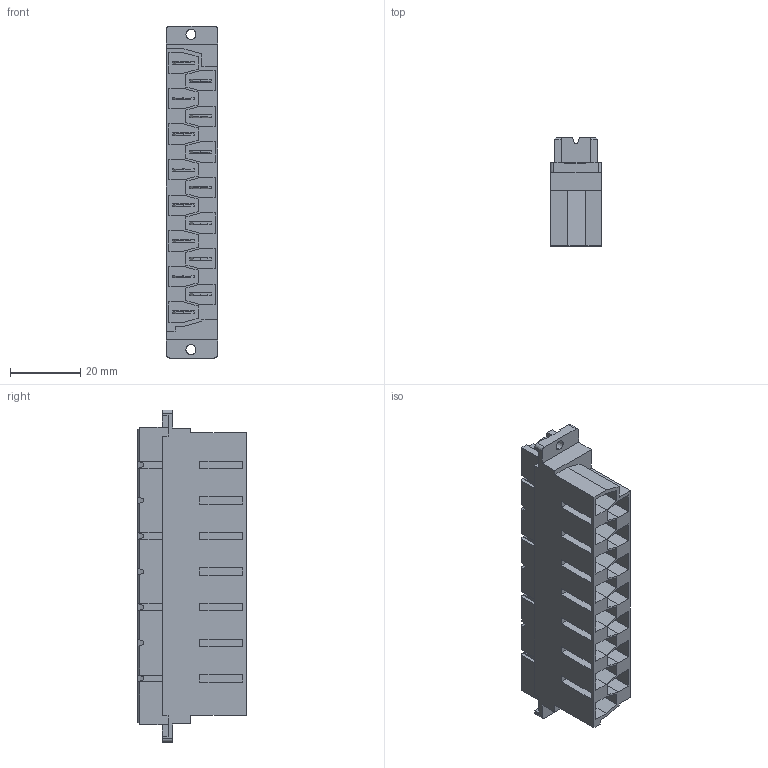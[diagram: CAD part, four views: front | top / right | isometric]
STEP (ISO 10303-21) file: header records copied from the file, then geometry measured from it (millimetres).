
FILE_DESCRIPTION (( 'STEP AP214' ), '1' );
FILE_NAME ('ept_114-40060_V03.STEP', '2019-03-28T07:38:00', ( '' ), ( '' ), 'SwSTEP 2.0', 'SolidWorks 2018', '' );
FILE_SCHEMA (( 'AUTOMOTIVE_DESIGN' ));
Length unit declared in the file: millimetre
Products named in the file (1): ept_114-40060_V03
Bounding box: 14.7 x 30.92 x 94.75 mm (x, y, z)
Volume: 25376.8 mm3; surface area: 17868.5 mm2
Topology: 1 solids, 1 shells, 719 faces, 1945 edges, 1272 vertices
Faces by surface type: bspline 482, plane 207, cylinder 30
Entity records: 22099 total; most frequent: CARTESIAN_POINT 7881, ORIENTED_EDGE 3890, EDGE_CURVE 1945, VERTEX_POINT 1272, DIRECTION 1259, B_SPLINE_CURVE_WITH_KNOTS 1222, EDGE_LOOP 797, ADVANCED_FACE 719
